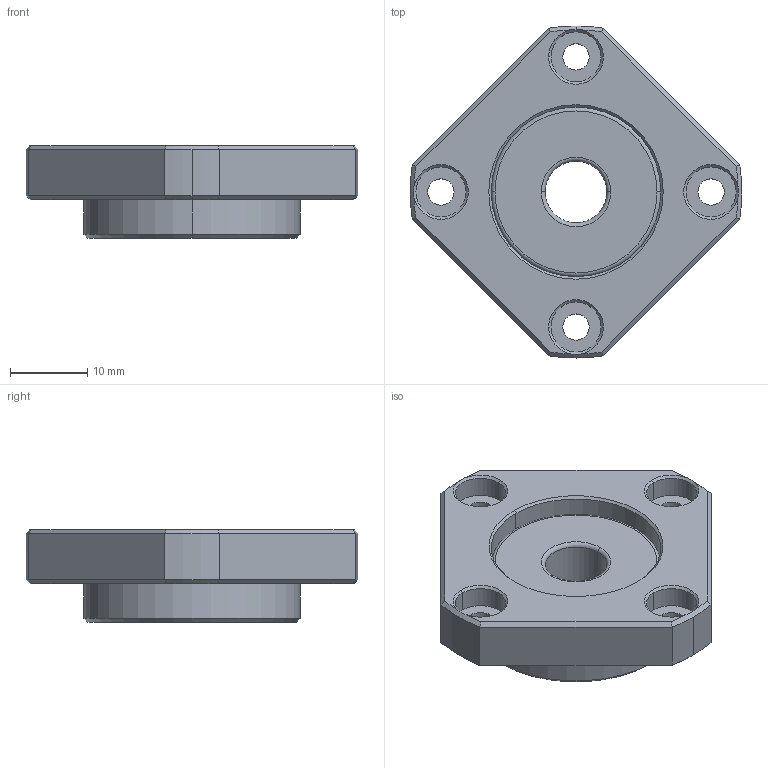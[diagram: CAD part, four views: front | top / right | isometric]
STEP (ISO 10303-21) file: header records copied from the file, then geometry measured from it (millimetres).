
FILE_DESCRIPTION (( 'STEP AP203' ), '1' );
FILE_NAME ('FSGF-10_203.STEP', '2013-02-28T00:07:39', ( '' ), ( '' ), 'SwSTEP 2.0', 'SolidWorks 2012', '' );
FILE_SCHEMA (( 'CONFIG_CONTROL_DESIGN' ));
Length unit declared in the file: millimetre
Products named in the file (1): FSGF-10_203
Bounding box: 42.93 x 43 x 12 mm (x, y, z)
Volume: 8482.4 mm3; surface area: 4421.4 mm2
Topology: 1 solids, 1 shells, 82 faces, 198 edges, 121 vertices
Faces by surface type: cylinder 29, cone 24, plane 21, torus 8
Entity records: 2528 total; most frequent: CARTESIAN_POINT 465, DIRECTION 455, ORIENTED_EDGE 396, EDGE_CURVE 198, AXIS2_PLACEMENT_3D 195, VERTEX_POINT 121, CIRCLE 112, EDGE_LOOP 95
